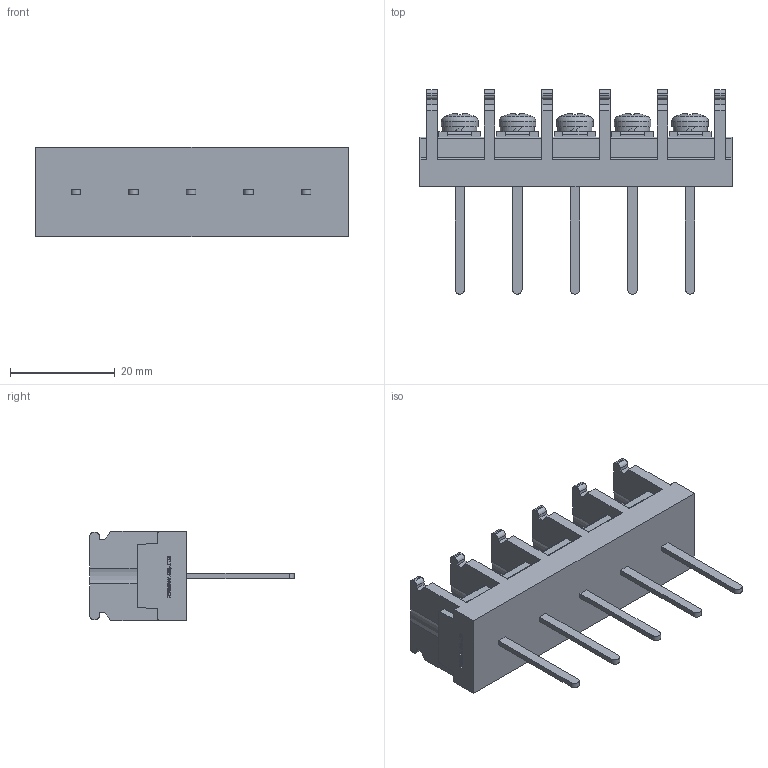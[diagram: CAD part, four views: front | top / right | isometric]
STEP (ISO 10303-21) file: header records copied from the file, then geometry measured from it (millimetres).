
FILE_DESCRIPTION(/* description */ ('Alibre Inc.'),/* implementation_level */ '2;1');
FILE_NAME(/* name */ 'export0',/* time_stamp */ '2015-10-20T07:45:18+09:00',/* author */ (''),/* organization */ (''),/* preprocessor_version */ 'ST-DEVELOPER v14',/* originating_system */ 'Alibre',/* authorisation */ '');
FILE_SCHEMA (('CONFIG_CONTROL_DESIGN'));
Length unit declared in the file: centimetre
Products named in the file (1): ID_1
Bounding box: 59.6 x 39 x 17 mm (x, y, z)
Volume: 11427.9 mm3; surface area: 6971.8 mm2
Topology: 1 solids, 1 shells, 783 faces, 2163 edges, 1437 vertices
Faces by surface type: plane 550, bspline 104, cylinder 94, cone 20, torus 10, sphere 5
Full cylindrical faces by diameter (mm): 4 x5, 6.5 x5, 7 x5
Entity records: 24234 total; most frequent: CARTESIAN_POINT 5408, ORIENTED_EDGE 4256, DIRECTION 3001, EDGE_CURVE 2128, VECTOR 1535, LINE 1535, VERTEX_POINT 1422, AXIS2_PLACEMENT_3D 1003
